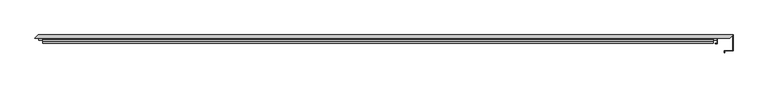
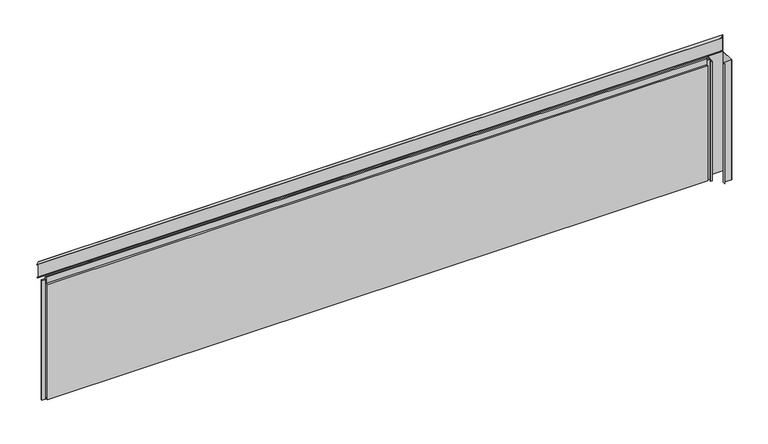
"""IFC4 building model written with IfcOpenShell, lengths in millimetres: plate geometry, Trimo_Qbiss Screen_Normal Panel-HORIZONTAL : HR - B."""

from ifc_helpers import new_model, si_unit, frame, origin, place, context, project, spatial, polyline, outline, extrude, faceted_brep, source, transform, mapped, element, save


def plate_0f8117da(model_context):
    return source(origin(), model_context, "Body", "SolidModel", [
        faceted_brep([(2110.8578644, 85.8578644, 762.3421356), (2125.0, 100.0, 748.2), (2125.0, 100.0, 848.2), (2105.0692781, 80.0692781, 847.1554751), (2105.0692781, 80.0692781, 846.3543772), (2124.2, 99.2, 847.3569759), (2124.2, 99.2, 750.1313708), (2111.4235498, 86.4235498, 762.907821), (-1939.1421356, 85.8578644, 762.3421356), (-1925.0, 100.0, 748.2), (-1938.5764502, 86.4235498, 762.907821), (-1925.8, 99.2, 750.1313708), (-1925.8, 99.2, 847.3569759), (-1944.9307219, 80.0692781, 846.3543772), (-1944.9307219, 80.0692781, 847.1554751), (-1925.0, 100.0, 848.2)], [[[0, 1, 2, 3, 4, 5, 6, 7]], [[1, 0, 8, 9]], [[0, 7, 10, 8]], [[7, 6, 11, 10]], [[6, 5, 12, 11]], [[5, 4, 13, 12]], [[4, 3, 14, 13]], [[3, 2, 15, 14]], [[2, 1, 9, 15]], [[9, 8, 10, 11, 12, 13, 14, 15]]]),
        extrude(outline(polyline([(-1903.0, 76.5978162), (-1903.0, 67.8978162), (-1922.0, 67.8978162), (-1922.0, 76.5978162), (-1903.0, 76.5978162)])), frame((0.0, 0.0, -1.0), z_axis=(0.0, 0.0, 1.0), x_axis=(1.0, 0.0, 0.0)), (0.0, 0.0, 1.0), 748.2),
        extrude(outline(polyline([(2011.0, 67.8978162), (2011.0, 76.5978162), (2030.0, 76.5978162), (2030.0, 67.8978162), (2011.0, 67.8978162)])), frame((0.0, 0.0, -1.0), z_axis=(0.0, 0.0, 1.0), x_axis=(1.0, 0.0, 0.0)), (0.0, 0.0, 1.0), 748.2),
        extrude(outline(polyline([(2008.0, 76.0), (2008.0, 71.0), (-1900.0, 71.0), (-1900.0, 76.0), (2008.0, 76.0)])), frame((0.0, 0.0, 726.2), z_axis=(0.0, 0.0, 1.0), x_axis=(1.0, 0.0, 0.0)), (0.0, 0.0, 1.0), 21.0),
        extrude(outline(polyline([(71.0, 725.2), (100.0, 725.2), (100.0, 0.0), (72.0, 0.0), (72.0, 15.5), (62.0, 15.5), (62.0, 7.0), (50.0, 7.0), (50.0, 725.2), (63.0, 725.2), (63.0, 762.7), (71.0, 762.7), (71.0, 725.2)])), frame((-1900.0, 0.0, 0.0), z_axis=(1.0, 0.0, 0.0), x_axis=(0.0, 1.0, 0.0)), (0.0, 0.0, 1.0), 3908.0),
        extrude(outline(polyline([(2033.0, 50.0), (2033.0, 100.0), (2125.0, 100.0), (2125.0, 8.0), (2075.0, 8.0), (2075.0, -4.5), (2074.2, -4.5), (2074.2, 8.8), (2124.2, 8.8), (2124.2, 99.2), (2033.8, 99.2), (2033.8, 49.1823429), (2020.5, 49.1823429), (2020.5, 50.0), (2033.0, 50.0)])), frame((0.0, 0.0, -1.0), z_axis=(0.0, 0.0, 1.0), x_axis=(1.0, 0.0, 0.0)), (0.0, 0.0, 1.0), 748.2),
    ])


if __name__ == "__main__":
    model = new_model("IFC4")
    model_context = context("Model", 3, world=origin())
    ifc_project = project(units=[si_unit("LENGTHUNIT", "METRE", prefix="MILLI")], contexts=[model_context])
    site = spatial("IfcSite", under=ifc_project)
    building = spatial("IfcBuilding", under=site)
    placement = place(None, origin())
    plate_shape = plate_0f8117da(model_context)
    element("IfcPlate", 1, ObjectType="Trimo_Qbiss Screen_Normal Panel-HORIZONTAL : HR - B", at=placement, inside=building, context=model_context, shape_type="MappedRepresentation", body=[
        mapped(plate_shape, transform((0.0, 0.0, 0.0), x_axis=(1.0, 0.0, 0.0), y_axis=(0.0, 1.0, 0.0), z_axis=(0.0, 0.0, 1.0))),
    ])
    save(model, "model.ifc")
